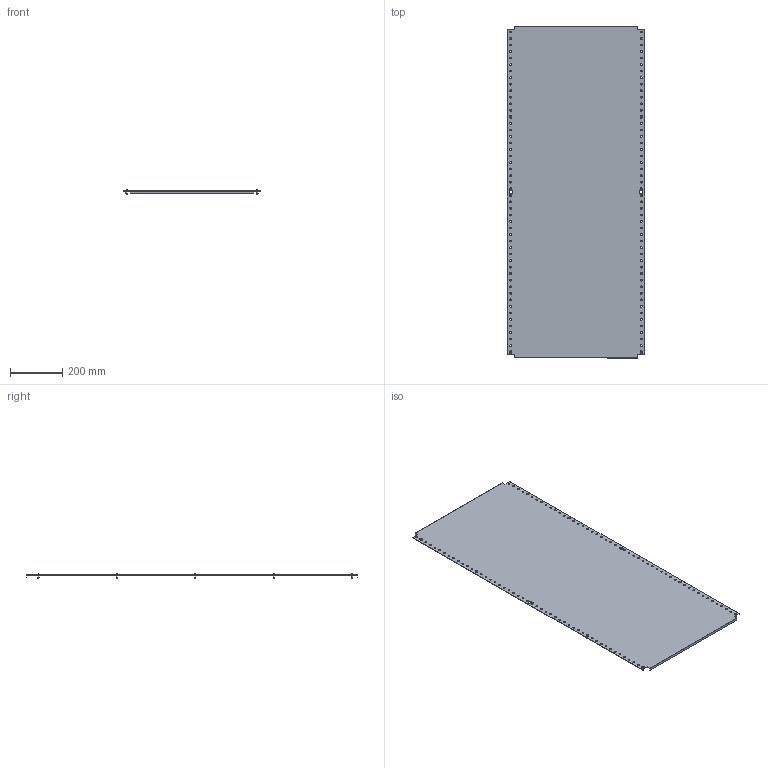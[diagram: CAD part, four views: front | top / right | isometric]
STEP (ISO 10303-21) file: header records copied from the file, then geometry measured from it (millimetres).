
FILE_DESCRIPTION (( 'STEP AP203' ), '1' );
FILE_NAME ('R6MP1460.STEP', '2025-03-28T12:07:57', ( '' ), ( '' ), 'SwSTEP 2.0', 'SolidWorks 2022', '' );
FILE_SCHEMA (( 'CONFIG_CONTROL_DESIGN' ));
Length unit declared in the file: millimetre
Products named in the file (3): RB.3293.00.00.0_-12; M5x12 DIN 7500 C Torx Zinc_stright; R6MP1460
Assembly tree (11 placements, depth 2):
  R6MP1460
    RB.3293.00.00.0_-12
    M5x12 DIN 7500 C Torx Zinc_stright  x10
Bounding box: 525 x 1270 x 15.56 mm (x, y, z)
Volume: 1208912.1 mm3; surface area: 1353121.6 mm2
Topology: 11 solids, 11 shells, 294 faces, 696 edges, 434 vertices
Faces by surface type: cylinder 124, plane 110, torus 20, cone 20, sphere 10, bspline 10
Full cylindrical faces by diameter (mm): 5 x10, 6.5 x100, 9.5 x10
Entity records: 5605 total; most frequent: CARTESIAN_POINT 962, DIRECTION 856, ORIENTED_EDGE 632, EDGE_LOOP 462, AXIS2_PLACEMENT_3D 384, EDGE_CURVE 316, VERTEX_POINT 278, FACE_OUTER_BOUND 256
